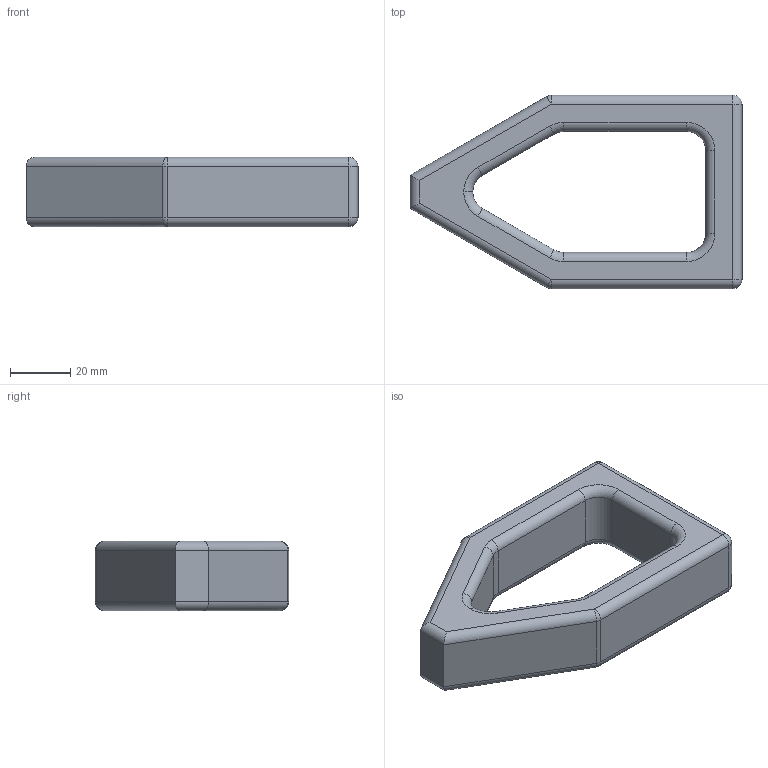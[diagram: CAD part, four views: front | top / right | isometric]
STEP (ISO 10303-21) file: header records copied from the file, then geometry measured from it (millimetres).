
FILE_DESCRIPTION (( 'STEP AP203' ), '1' );
FILE_NAME ('Tether Routing Tool.STEP', '2017-04-18T15:28:37', ( '' ), ( '' ), 'SwSTEP 2.0', 'SolidWorks 2017', '' );
FILE_SCHEMA (( 'CONFIG_CONTROL_DESIGN' ));
Length unit declared in the file: millimetre
Products named in the file (1): Tether Routing Tool
Bounding box: 110 x 64.1 x 23 mm (x, y, z)
Volume: 72034 mm3; surface area: 16857.5 mm2
Topology: 1 solids, 1 shells, 65 faces, 147 edges, 76 vertices
Faces by surface type: cylinder 32, plane 13, torus 12, sphere 8
Entity records: 1804 total; most frequent: DIRECTION 337, CARTESIAN_POINT 293, ORIENTED_EDGE 278, EDGE_CURVE 139, AXIS2_PLACEMENT_3D 136, VERTEX_POINT 76, CIRCLE 70, EDGE_LOOP 67
